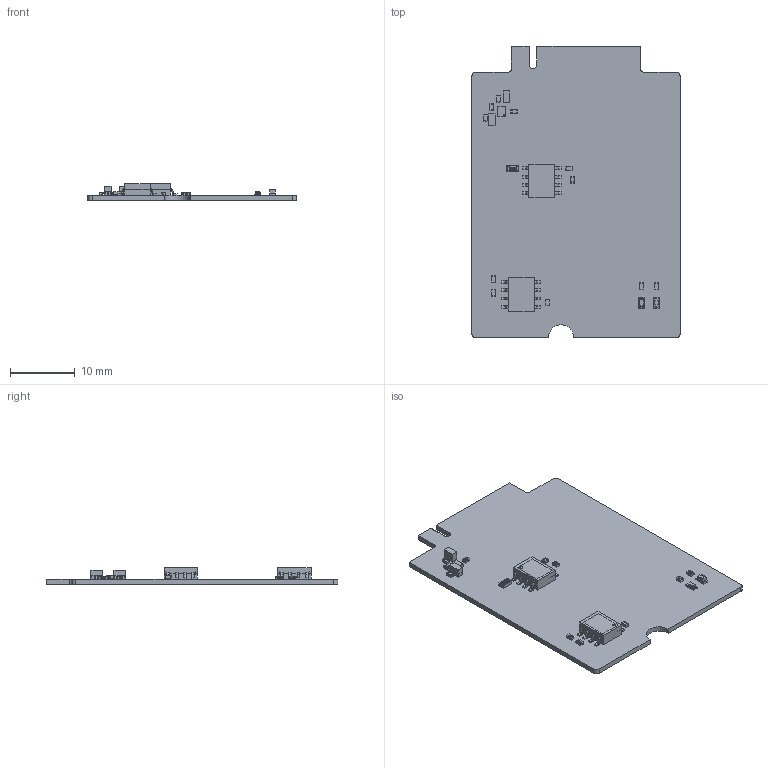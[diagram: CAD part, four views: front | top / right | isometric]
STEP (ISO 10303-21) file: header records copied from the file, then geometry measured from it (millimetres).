
FILE_DESCRIPTION(('Open CASCADE Model'),'2;1');
FILE_NAME('Open CASCADE Shape Model','2025-10-06T13:03:10',('Author'),( 'Open CASCADE'),'Open CASCADE STEP processor 7.5','Open CASCADE 7.5' ,'Unknown');
FILE_SCHEMA(('AUTOMOTIVE_DESIGN { 1 0 10303 214 1 1 1 1 }'));
Length unit declared in the file: millimetre
Products named in the file (75): PCB; Board; Open CASCADE STEP translator 7.5 2.1.1; SB2; R0402; 7932285328; Extruded; U4; SO8; 7932281248; U2; U1; 7932285808; 7932287248; 7932287408; 7932287088; 7932287568; Cylinder; SB5; 7932281648; R7; R0603; 7932280368; R5; 7932282128; R4; R3; R2; R1; LD2; 7932283248; 7932283008; 7932282768; 7932282608; 7932282368; LD1; LED_0603_GREEN; User Library-LED_0603_G_Pocket002; User Library-LED_0603_G_Pad004; User Library-LED_0603_G_Fillet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
Assembly tree (112 placements, depth 4):
  PCB
    Board
      Open CASCADE STEP translator 7.5 2.1.1
    SB2
      R0402
      7932285328
        Extruded
    U4
      SO8
      7932281248
        Extruded
    U2
      SO8
      7932281248
        Extruded
    U1
      7932285808
        Extruded
      7932287248  x8
        Extruded
      7932287408  x8
        Extruded
      7932287088
        Extruded
      7932287568
        Cylinder
    SB5
      R0402
      7932281648
        Extruded
    R7
      R0603
      7932280368
        Extruded
    R5
      R0402
      7932282128
        Extruded
    R4
      R0402
      7932282128
        Extruded
    R3
      R0402
      7932282128
        Extruded
    R2
      R0402
      7932282128
        Extruded
    R1
      R0402
      7932282128
        Extruded
    LD2
      7932283248  x2
        Extruded
      7932283008  x2
        Extruded
      7932282768
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Bounding box: 32.1 x 44.98 x 2.55 mm (x, y, z)
Volume: 1245.4 mm3; surface area: 3347.3 mm2
Topology: 87 solids, 89 shells, 3112 faces, 7193 edges, 4028 vertices
Faces by surface type: plane 1090, cylinder 993, bspline 543, sphere 371, torus 63, revolution 32, cone 20
Full cylindrical faces by diameter (mm): 0.2 x2
Entity records: 33649 total; most frequent: CARTESIAN_POINT 10384, ORIENTED_EDGE 3810, DIRECTION 3767, EDGE_CURVE 1904, AXIS2_PLACEMENT_3D 1261, LINE 1237, VECTOR 1237, VERTEX_POINT 1168
